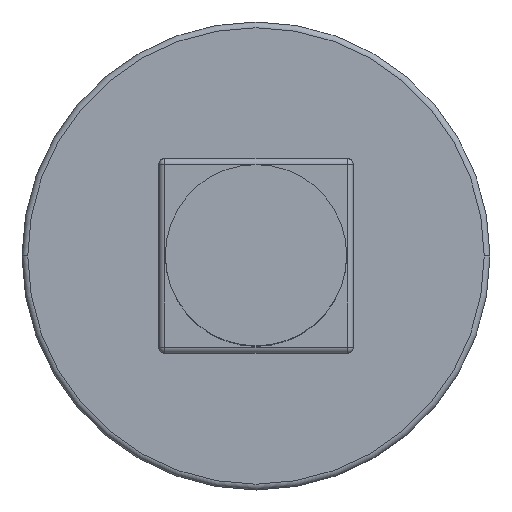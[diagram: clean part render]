
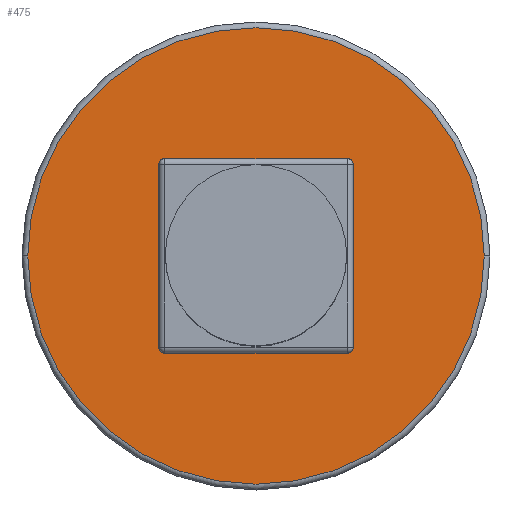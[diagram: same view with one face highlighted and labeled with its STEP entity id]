
A CAD part, top view. The second image highlights one B-rep face of the part: STEP entity #475.
In plain terms, the highlighted planar face has unit normal (0, 0, 1).
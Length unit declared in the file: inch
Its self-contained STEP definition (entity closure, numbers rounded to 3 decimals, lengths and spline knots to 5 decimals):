
#78=CARTESIAN_POINT('',(0.,0.,0.));
#79=DIRECTION('',(0.,0.,1.));
#80=DIRECTION('',(1.,0.,0.));
#81=AXIS2_PLACEMENT_3D('',#78,#79,#80);
#83=CARTESIAN_POINT('',(0.,0.,0.));
#84=DIRECTION('',(0.,0.,1.));
#85=DIRECTION('',(-1.,0.,0.));
#86=AXIS2_PLACEMENT_3D('',#83,#84,#85);
#88=DIRECTION('',(1.,0.,0.));
#89=VECTOR('',#88,0.3178);
#90=CARTESIAN_POINT('',(-0.1589,0.1689,0.));
#91=LINE('',#90,#89);
#92=CARTESIAN_POINT('',(-0.1589,0.1589,0.));
#93=DIRECTION('',(0.,0.,-1.));
#94=DIRECTION('',(-1.,0.,0.));
#95=AXIS2_PLACEMENT_3D('',#92,#93,#94);
#97=DIRECTION('',(0.,1.,0.));
#98=VECTOR('',#97,0.3178);
#99=CARTESIAN_POINT('',(-0.1689,-0.1589,0.));
#100=LINE('',#99,#98);
#101=CARTESIAN_POINT('',(-0.1589,-0.1589,0.));
#102=DIRECTION('',(0.,0.,-1.));
#103=DIRECTION('',(0.,-1.,0.));
#104=AXIS2_PLACEMENT_3D('',#101,#102,#103);
#106=DIRECTION('',(-1.,0.,0.));
#107=VECTOR('',#106,0.3178);
#108=CARTESIAN_POINT('',(0.1589,-0.1689,0.));
#109=LINE('',#108,#107);
#110=CARTESIAN_POINT('',(0.1589,-0.1589,0.));
#111=DIRECTION('',(0.,0.,-1.));
#112=DIRECTION('',(1.,0.,0.));
#113=AXIS2_PLACEMENT_3D('',#110,#111,#112);
#115=DIRECTION('',(0.,-1.,0.));
#116=VECTOR('',#115,0.3178);
#117=CARTESIAN_POINT('',(0.1689,0.1589,0.));
#118=LINE('',#117,#116);
#119=CARTESIAN_POINT('',(0.1589,0.1589,0.));
#120=DIRECTION('',(0.,0.,-1.));
#121=DIRECTION('',(0.,1.,0.));
#122=AXIS2_PLACEMENT_3D('',#119,#120,#121);
#301=CARTESIAN_POINT('',(-0.3965,0.,0.));
#302=CARTESIAN_POINT('',(0.3965,0.,0.));
#303=VERTEX_POINT('',#301);
#304=VERTEX_POINT('',#302);
#305=CARTESIAN_POINT('',(0.1589,0.1689,0.));
#306=CARTESIAN_POINT('',(0.1689,0.1589,0.));
#307=VERTEX_POINT('',#305);
#308=VERTEX_POINT('',#306);
#313=CARTESIAN_POINT('',(-0.1689,-0.1589,0.));
#314=CARTESIAN_POINT('',(-0.1689,0.1589,0.));
#315=VERTEX_POINT('',#313);
#316=VERTEX_POINT('',#314);
#317=CARTESIAN_POINT('',(0.1689,-0.1589,0.));
#318=CARTESIAN_POINT('',(0.1589,-0.1689,0.));
#319=VERTEX_POINT('',#317);
#320=VERTEX_POINT('',#318);
#323=CARTESIAN_POINT('',(-0.1589,-0.1689,0.));
#324=VERTEX_POINT('',#323);
#325=CARTESIAN_POINT('',(-0.1589,0.1689,0.));
#326=VERTEX_POINT('',#325);
#447=CARTESIAN_POINT('',(0.,0.,0.));
#448=DIRECTION('',(0.,0.,1.));
#449=DIRECTION('',(1.,0.,0.));
#450=AXIS2_PLACEMENT_3D('',#447,#448,#449);
#451=PLANE('',#450);
#453=ORIENTED_EDGE('',*,*,#452,.F.);
#455=ORIENTED_EDGE('',*,*,#454,.F.);
#456=EDGE_LOOP('',(#453,#455));
#457=FACE_OUTER_BOUND('',#456,.F.);
#459=ORIENTED_EDGE('',*,*,#458,.F.);
#460=ORIENTED_EDGE('',*,*,#437,.F.);
#462=ORIENTED_EDGE('',*,*,#461,.F.);
#464=ORIENTED_EDGE('',*,*,#463,.F.);
#466=ORIENTED_EDGE('',*,*,#465,.F.);
#468=ORIENTED_EDGE('',*,*,#467,.F.);
#470=ORIENTED_EDGE('',*,*,#469,.F.);
#472=ORIENTED_EDGE('',*,*,#471,.F.);
#473=EDGE_LOOP('',(#459,#460,#462,#464,#466,#468,#470,#472));
#474=FACE_BOUND('',#473,.F.);
#82=CIRCLE('',#81,0.3965);
#87=CIRCLE('',#86,0.3965);
#96=CIRCLE('',#95,0.01);
#105=CIRCLE('',#104,0.01);
#114=CIRCLE('',#113,0.01);
#123=CIRCLE('',#122,0.01);
#437=EDGE_CURVE('',#316,#326,#96,.T.);
#452=EDGE_CURVE('',#304,#303,#82,.T.);
#454=EDGE_CURVE('',#303,#304,#87,.T.);
#458=EDGE_CURVE('',#326,#307,#91,.T.);
#461=EDGE_CURVE('',#315,#316,#100,.T.);
#463=EDGE_CURVE('',#324,#315,#105,.T.);
#465=EDGE_CURVE('',#320,#324,#109,.T.);
#467=EDGE_CURVE('',#319,#320,#114,.T.);
#469=EDGE_CURVE('',#308,#319,#118,.T.);
#471=EDGE_CURVE('',#307,#308,#123,.T.);
#475=ADVANCED_FACE('',(#457,#474),#451,.T.);
